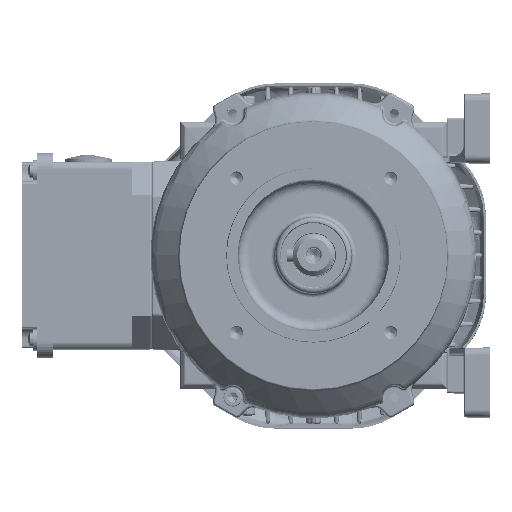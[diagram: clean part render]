
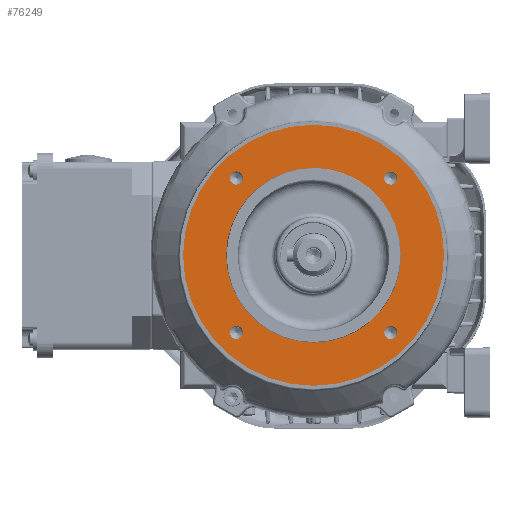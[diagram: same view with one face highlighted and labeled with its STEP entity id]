
A CAD part, top view. The second image highlights one B-rep face of the part: STEP entity #76249.
In plain terms, the highlighted planar face has unit normal (0, 0, 1).
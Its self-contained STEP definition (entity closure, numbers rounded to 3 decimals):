
#76249=ADVANCED_FACE('',(#82159,#82160,#82161,#82162,#82163,#82164),#80303,
 .T.);
#80303=PLANE('',#244012);
#82159=FACE_BOUND('',#93307,.T.);
#82160=FACE_BOUND('',#93308,.T.);
#82161=FACE_BOUND('',#93309,.T.);
#82162=FACE_BOUND('',#93310,.T.);
#82163=FACE_BOUND('',#93311,.T.);
#82164=FACE_BOUND('',#93312,.T.);
#93307=EDGE_LOOP('',(#141578));
#93308=EDGE_LOOP('',(#141579));
#93309=EDGE_LOOP('',(#141580));
#93310=EDGE_LOOP('',(#141581));
#93311=EDGE_LOOP('',(#141582));
#93312=EDGE_LOOP('',(#141583));
#141578=ORIENTED_EDGE('',*,*,#189157,.T.);
#141579=ORIENTED_EDGE('',*,*,#189158,.T.);
#141580=ORIENTED_EDGE('',*,*,#189159,.T.);
#141581=ORIENTED_EDGE('',*,*,#189160,.T.);
#141582=ORIENTED_EDGE('',*,*,#189156,.T.);
#141583=ORIENTED_EDGE('',*,*,#188199,.T.);
#163087=VERTEX_POINT('',#433871);
#163617=VERTEX_POINT('',#441128);
#163618=VERTEX_POINT('',#441131);
#163619=VERTEX_POINT('',#441133);
#163620=VERTEX_POINT('',#441135);
#163621=VERTEX_POINT('',#441137);
#188199=EDGE_CURVE('',#163087,#163087,#201883,.T.);
#189156=EDGE_CURVE('',#163617,#163617,#202303,.T.);
#189157=EDGE_CURVE('',#163618,#163618,#202304,.T.);
#189158=EDGE_CURVE('',#163619,#163619,#202305,.T.);
#189159=EDGE_CURVE('',#163620,#163620,#202306,.T.);
#189160=EDGE_CURVE('',#163621,#163621,#202307,.T.);
#201883=CIRCLE('',#243319,40.);
#202303=CIRCLE('',#244006,59.75);
#202304=CIRCLE('',#244008,3.);
#202305=CIRCLE('',#244009,3.);
#202306=CIRCLE('',#244010,3.);
#202307=CIRCLE('',#244011,3.);
#243319=AXIS2_PLACEMENT_3D('',#433870,#287377,#287378);
#244006=AXIS2_PLACEMENT_3D('',#441127,#288888,#288889);
#244008=AXIS2_PLACEMENT_3D('',#441130,#288892,#288893);
#244009=AXIS2_PLACEMENT_3D('',#441132,#288894,#288895);
#244010=AXIS2_PLACEMENT_3D('',#441134,#288896,#288897);
#244011=AXIS2_PLACEMENT_3D('',#441136,#288898,#288899);
#244012=AXIS2_PLACEMENT_3D('',#441138,#288900,#288901);
#287377=DIRECTION('',(0.,0.,-1.));
#287378=DIRECTION('',(1.,0.,0.));
#288888=DIRECTION('',(0.,0.,1.));
#288889=DIRECTION('',(1.,0.,0.));
#288892=DIRECTION('',(0.,0.,-1.));
#288893=DIRECTION('',(1.,0.,0.));
#288894=DIRECTION('',(0.,0.,-1.));
#288895=DIRECTION('',(1.,0.,0.));
#288896=DIRECTION('',(0.,0.,-1.));
#288897=DIRECTION('',(1.,0.,0.));
#288898=DIRECTION('',(0.,0.,-1.));
#288899=DIRECTION('',(1.,0.,0.));
#288900=DIRECTION('',(0.,0.,1.));
#288901=DIRECTION('',(1.,0.,0.));
#433870=CARTESIAN_POINT('',(0.,0.,69.5));
#433871=CARTESIAN_POINT('',(40.,0.,69.5));
#441127=CARTESIAN_POINT('',(0.,0.,69.5));
#441128=CARTESIAN_POINT('',(59.75,0.,69.5));
#441130=CARTESIAN_POINT('',(35.355,35.355,69.5));
#441131=CARTESIAN_POINT('',(38.355,35.355,69.5));
#441132=CARTESIAN_POINT('',(-35.355,35.355,69.5));
#441133=CARTESIAN_POINT('',(-32.355,35.355,69.5));
#441134=CARTESIAN_POINT('',(35.355,-35.355,69.5));
#441135=CARTESIAN_POINT('',(38.355,-35.355,69.5));
#441136=CARTESIAN_POINT('',(-35.355,-35.355,69.5));
#441137=CARTESIAN_POINT('',(-32.355,-35.355,69.5));
#441138=CARTESIAN_POINT('',(0.,0.,69.5));
